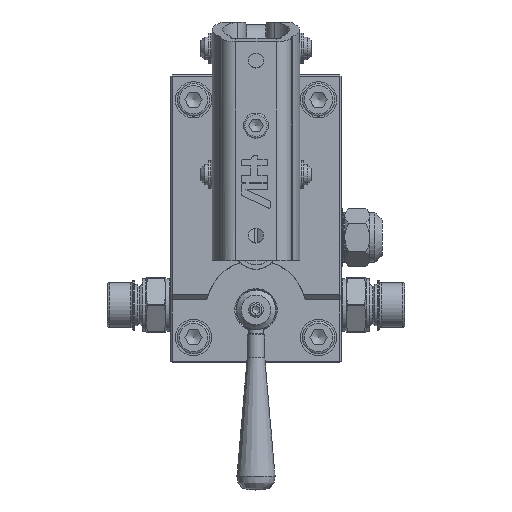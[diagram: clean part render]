
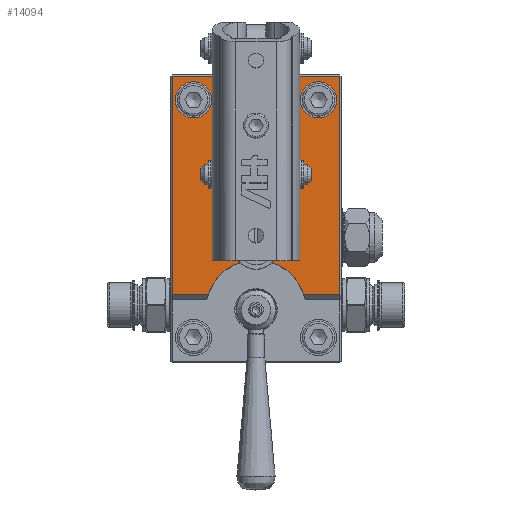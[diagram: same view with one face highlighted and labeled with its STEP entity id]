
A CAD part, top view. The second image highlights one B-rep face of the part: STEP entity #14094.
In plain terms, the highlighted planar face has unit normal (0, 0, 1).
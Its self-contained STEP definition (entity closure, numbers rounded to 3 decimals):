
#13983=CARTESIAN_POINT('',(16.25,75.0,48.));
#13984=VERTEX_POINT('',#13983);
#13985=CARTESIAN_POINT('',(34.,75.0,48.));
#13986=DIRECTION('',(0.0,0.0,1.0));
#13987=DIRECTION('',(1.0,0.0,0.0));
#13988=AXIS2_PLACEMENT_3D('',#13985,#13986,#13987);
#13989=CIRCLE('',#13988,17.75);
#13990=EDGE_CURVE('',#13984,#13984,#13989,.T.);
#13995=CARTESIAN_POINT('',(34.,57.5,48.));
#13996=DIRECTION('',(0.0,0.0,1.0));
#13997=DIRECTION('',(1.0,0.0,0.0));
#13998=AXIS2_PLACEMENT_3D('',#13995,#13996,#13997);
#13999=PLANE('',#13998);
#14000=CARTESIAN_POINT('',(27.661,39.969,48.));
#14001=VERTEX_POINT('',#14000);
#14002=CARTESIAN_POINT('',(40.339,39.969,48.));
#14003=VERTEX_POINT('',#14002);
#14004=CARTESIAN_POINT('',(34.,46.0,48.));
#14005=DIRECTION('',(0.0,0.0,-1.0));
#14006=DIRECTION('',(1.0,0.0,0.0));
#14007=AXIS2_PLACEMENT_3D('',#14004,#14005,#14006);
#14008=CIRCLE('',#14007,8.75);
#14009=EDGE_CURVE('',#14001,#14003,#14008,.T.);
#14010=ORIENTED_EDGE('',*,*,#14009,.T.);
#14011=CARTESIAN_POINT('',(53.079,27.,48.));
#14012=VERTEX_POINT('',#14011);
#14013=CARTESIAN_POINT('',(34.,21.,48.));
#14014=DIRECTION('',(0.0,0.0,-1.0));
#14015=DIRECTION('',(-1.0,0.0,0.0));
#14016=AXIS2_PLACEMENT_3D('',#14013,#14014,#14015);
#14017=CIRCLE('',#14016,20.0);
#14018=EDGE_CURVE('',#14003,#14012,#14017,.T.);
#14019=ORIENTED_EDGE('',*,*,#14018,.T.);
#14020=CARTESIAN_POINT('',(67.5,27.,48.));
#14021=VERTEX_POINT('',#14020);
#14022=CARTESIAN_POINT('',(67.5,27.,48.));
#14023=DIRECTION('',(-1.0,0.0,0.0));
#14024=VECTOR('',#14023,14.421);
#14025=LINE('',#14022,#14024);
#14026=EDGE_CURVE('',#14021,#14012,#14025,.T.);
#14027=ORIENTED_EDGE('',*,*,#14026,.F.);
#14028=CARTESIAN_POINT('',(67.5,114.5,48.));
#14029=VERTEX_POINT('',#14028);
#14030=CARTESIAN_POINT('',(67.5,114.5,48.));
#14031=DIRECTION('',(0.0,-1.0,0.0));
#14032=VECTOR('',#14031,87.5);
#14033=LINE('',#14030,#14032);
#14034=EDGE_CURVE('',#14029,#14021,#14033,.T.);
#14035=ORIENTED_EDGE('',*,*,#14034,.F.);
#14036=CARTESIAN_POINT('',(0.5,114.5,48.));
#14037=VERTEX_POINT('',#14036);
#14038=CARTESIAN_POINT('',(0.5,114.5,48.));
#14039=DIRECTION('',(1.0,0.0,0.0));
#14040=VECTOR('',#14039,67.0);
#14041=LINE('',#14038,#14040);
#14042=EDGE_CURVE('',#14037,#14029,#14041,.T.);
#14043=ORIENTED_EDGE('',*,*,#14042,.F.);
#14044=CARTESIAN_POINT('',(0.5,27.,48.));
#14045=VERTEX_POINT('',#14044);
#14046=CARTESIAN_POINT('',(0.5,27.,48.));
#14047=DIRECTION('',(0.0,1.0,0.0));
#14048=VECTOR('',#14047,87.5);
#14049=LINE('',#14046,#14048);
#14050=EDGE_CURVE('',#14045,#14037,#14049,.T.);
#14051=ORIENTED_EDGE('',*,*,#14050,.F.);
#14052=CARTESIAN_POINT('',(14.921,27.,48.));
#14053=VERTEX_POINT('',#14052);
#14054=CARTESIAN_POINT('',(14.921,27.,48.));
#14055=DIRECTION('',(-1.0,0.0,0.0));
#14056=VECTOR('',#14055,14.421);
#14057=LINE('',#14054,#14056);
#14058=EDGE_CURVE('',#14053,#14045,#14057,.T.);
#14059=ORIENTED_EDGE('',*,*,#14058,.F.);
#14060=CARTESIAN_POINT('',(34.,21.,48.));
#14061=DIRECTION('',(0.0,0.0,-1.0));
#14062=DIRECTION('',(-1.0,0.0,0.0));
#14063=AXIS2_PLACEMENT_3D('',#14060,#14061,#14062);
#14064=CIRCLE('',#14063,20.0);
#14065=EDGE_CURVE('',#14053,#14001,#14064,.T.);
#14066=ORIENTED_EDGE('',*,*,#14065,.T.);
#14067=EDGE_LOOP('',(#14010,#14019,#14027,#14035,#14043,#14051,#14059,#14066));
#14068=FACE_OUTER_BOUND('',#14067,.T.);
#14069=CARTESIAN_POINT('',(66.25,105.0,48.));
#14070=VERTEX_POINT('',#14069);
#14071=CARTESIAN_POINT('',(59.,105.0,48.));
#14072=DIRECTION('',(0.0,0.0,-1.0));
#14073=DIRECTION('',(-1.0,0.0,0.0));
#14074=AXIS2_PLACEMENT_3D('',#14071,#14072,#14073);
#14075=CIRCLE('',#14074,7.25);
#14076=EDGE_CURVE('',#14070,#14070,#14075,.T.);
#14077=ORIENTED_EDGE('',*,*,#14076,.T.);
#14078=EDGE_LOOP('',(#14077));
#14079=FACE_BOUND('',#14078,.T.);
#14080=CARTESIAN_POINT('',(16.25,105.0,48.));
#14081=VERTEX_POINT('',#14080);
#14082=CARTESIAN_POINT('',(9.,105.0,48.));
#14083=DIRECTION('',(0.0,0.0,-1.0));
#14084=DIRECTION('',(-1.0,0.0,0.0));
#14085=AXIS2_PLACEMENT_3D('',#14082,#14083,#14084);
#14086=CIRCLE('',#14085,7.25);
#14087=EDGE_CURVE('',#14081,#14081,#14086,.T.);
#14088=ORIENTED_EDGE('',*,*,#14087,.T.);
#14089=EDGE_LOOP('',(#14088));
#14090=FACE_BOUND('',#14089,.T.);
#14091=ORIENTED_EDGE('',*,*,#13990,.F.);
#14092=EDGE_LOOP('',(#14091));
#14093=FACE_BOUND('',#14092,.T.);
#14094=ADVANCED_FACE('',(#14068,#14079,#14090,#14093),#13999,.T.);
